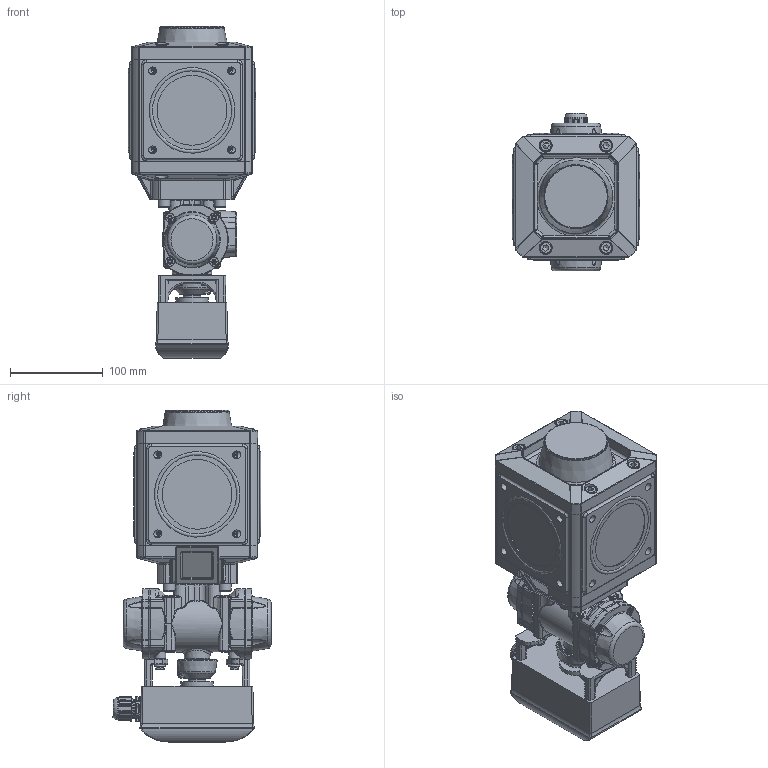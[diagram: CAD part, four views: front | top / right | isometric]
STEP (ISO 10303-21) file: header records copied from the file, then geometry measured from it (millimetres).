
FILE_DESCRIPTION(/* description */ (''),/* implementation_level */ '2;1');
FILE_NAME(/* name */ 'E:\WorkSpace\Designs\1700\1700057.stp',/* time_stamp */ '2022-05-23T12:50:20+02:00',/* author */ ('JJ'),/* organization */ (''),/* preprocessor_version */ 'ST-DEVELOPER v18.1',/* originating_system */ 'Autodesk Inventor 2022',/* authorisation */ '');
FILE_SCHEMA (('AUTOMOTIVE_DESIGN { 1 0 10303 214 3 1 1 }'));
Products named in the file (1): 1700057
Bounding box: 136.78 x 170.09 x 357.3 mm (x, y, z)
Volume: 3795469.6 mm3; surface area: 289545.4 mm2
Topology: 1 solids, 20 shells, 3433 faces, 8219 edges, 4836 vertices
Faces by surface type: cylinder 1092, plane 793, bspline 568, torus 536, cone 373, sphere 71
Full cylindrical faces by diameter (mm): 4 x2, 4.134 x6, 5 x4, 5.25 x4, 8 x7, 8.376 x16, 8.5 x7, 13 x11, 13.3 x4, 14 x9, 14.9 x1, 17.9 x1, 19 x1, 20 x1, 20.2 x1, 21.8 x1, 22 x1, 23 x1, 24 x2, 26.4 x1, 35 x1, 55 x2, 58 x2, 62 x2, 68 x1, 75 x4
Entity records: 150111 total; most frequent: CARTESIAN_POINT 70316, ORIENTED_EDGE 16252, DIRECTION 16070, EDGE_CURVE 8126, AXIS2_PLACEMENT_3D 6603, VERTEX_POINT 4836, EDGE_LOOP 3602, FACE_OUTER_BOUND 3433
